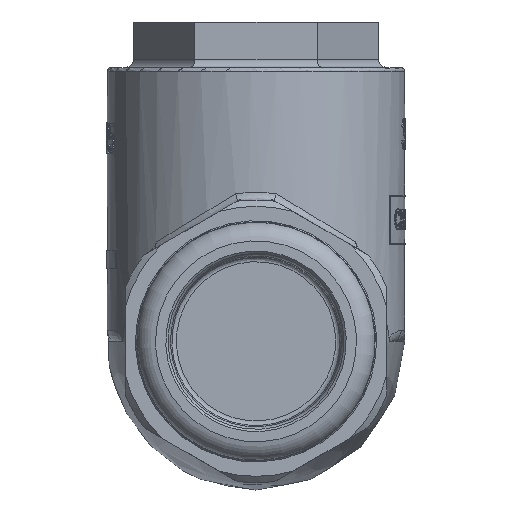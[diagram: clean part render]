
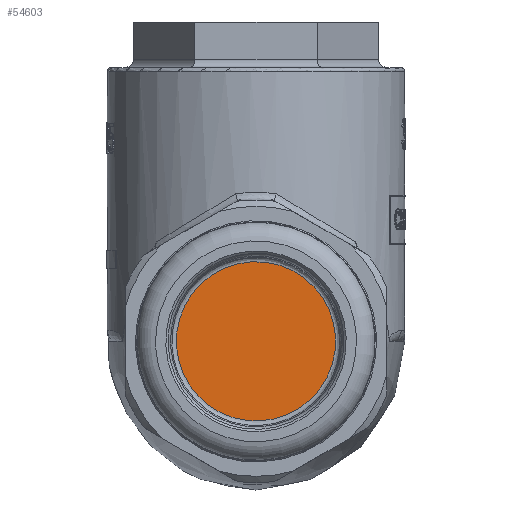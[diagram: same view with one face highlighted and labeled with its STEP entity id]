
A CAD part, left-side view. The second image highlights one B-rep face of the part: STEP entity #54603.
In plain terms, the highlighted planar face has unit normal (-1, 0, 0).
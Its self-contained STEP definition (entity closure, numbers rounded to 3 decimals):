
#54587=CARTESIAN_POINT('',(-73.1,2.365,-4.687));
#54588=DIRECTION('',(-1.0,0.0,0.0));
#54589=DIRECTION('',(0.0,0.893,0.45));
#54590=AXIS2_PLACEMENT_3D('',#54587,#54588,#54589);
#54591=PLANE('',#54590);
#54592=CARTESIAN_POINT('',(-73.1,4.73,-9.374));
#54593=VERTEX_POINT('',#54592);
#54594=CARTESIAN_POINT('',(-73.1,0.,0.));
#54595=DIRECTION('',(-1.0,0.,0.));
#54596=DIRECTION('',(0.,0.45,-0.893));
#54597=AXIS2_PLACEMENT_3D('',#54594,#54595,#54596);
#54598=CIRCLE('',#54597,10.5);
#54599=EDGE_CURVE('',#54593,#54593,#54598,.T.);
#54600=ORIENTED_EDGE('',*,*,#54599,.T.);
#54601=EDGE_LOOP('',(#54600));
#54602=FACE_OUTER_BOUND('',#54601,.T.);
#54603=ADVANCED_FACE('',(#54602),#54591,.T.);
